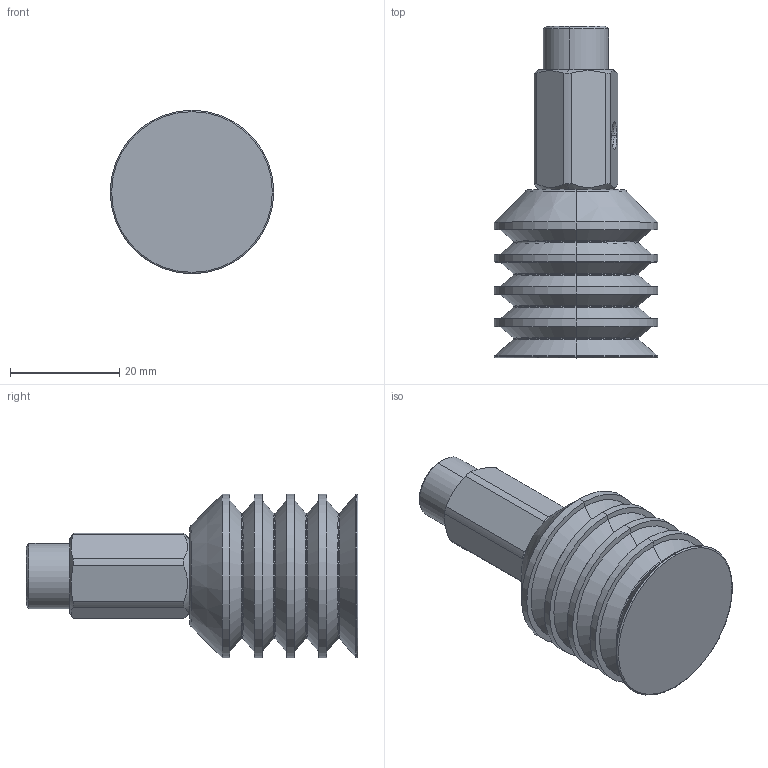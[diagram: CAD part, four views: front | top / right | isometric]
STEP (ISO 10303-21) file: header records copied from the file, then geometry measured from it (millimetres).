
FILE_DESCRIPTION (( 'STEP AP203' ), '1' );
FILE_NAME ('XP-BL30-S5F-8F-PUBLIC.STEP', '2011-05-17T18:39:25', ( '' ), ( '' ), 'SwSTEP 2.0', 'SolidWorks 2011', '' );
FILE_SCHEMA (( 'CONFIG_CONTROL_DESIGN' ));
Length unit declared in the file: inch
Products named in the file (1): XP-BL30-S5F-8F-PUBLIC
Bounding box: 29.97 x 60.83 x 29.97 mm (x, y, z)
Volume: 21177.4 mm3; surface area: 6601.5 mm2
Topology: 1 solids, 2 shells, 101 faces, 211 edges, 118 vertices
Faces by surface type: cone 42, cylinder 25, torus 20, plane 14
Entity records: 2838 total; most frequent: CARTESIAN_POINT 549, DIRECTION 529, ORIENTED_EDGE 422, AXIS2_PLACEMENT_3D 228, EDGE_CURVE 211, CIRCLE 126, VERTEX_POINT 118, EDGE_LOOP 105
